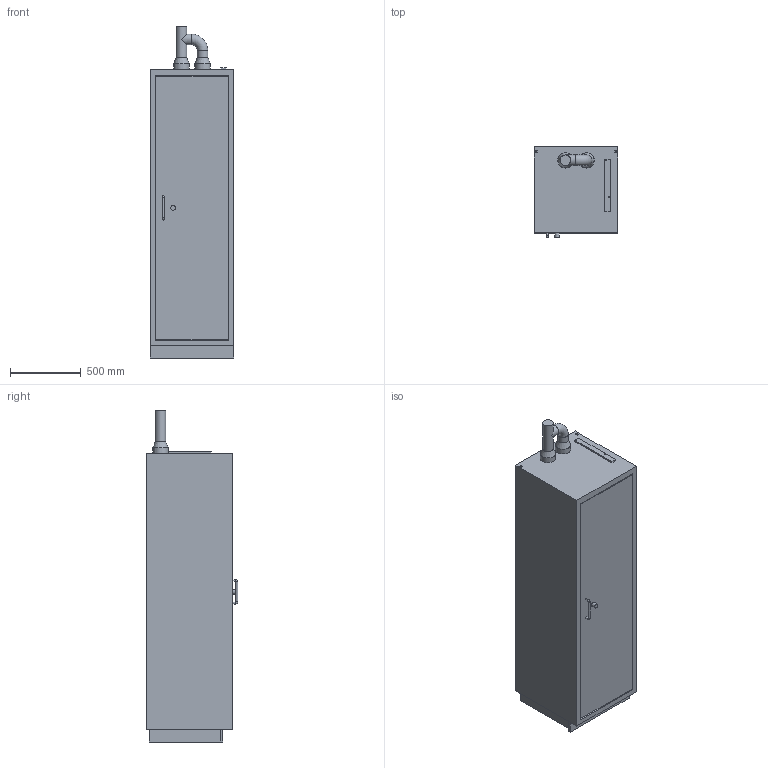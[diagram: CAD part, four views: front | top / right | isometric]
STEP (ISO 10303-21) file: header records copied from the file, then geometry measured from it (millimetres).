
FILE_DESCRIPTION(/* description */ ('Unknown'),/* implementation_level */ '2;1');
FILE_NAME(/* name */ 'BATTERY standard M_D00108837',/* time_stamp */ '2020-11-18T13:19:51+01:00',/* author */ ('Unknown'),/* organization */ ('Unknown'),/* preprocessor_version */ 'ST-DEVELOPER v16.7',/* originating_system */ 'Solid Edge',/* authorisation */ 'Unknown');
FILE_SCHEMA (('AUTOMOTIVE_DESIGN {1 0 10303 214 3 1 1}'));
Length unit declared in the file: millimetre
Products named in the file (1): BATTERY standard M_D00108837
Bounding box: 594 x 647 x 2351 mm (x, y, z)
Volume: 715639222.5 mm3; surface area: 6581091.5 mm2
Topology: 1 solids, 1 shells, 84 faces, 201 edges, 134 vertices
Faces by surface type: plane 62, cylinder 17, torus 3, cone 2
Full cylindrical faces by diameter (mm): 6.2 x2, 7.5 x2, 12 x3, 30 x4, 32 x1, 75 x3, 109.5 x2
Entity records: 2848 total; most frequent: CARTESIAN_POINT 379, DIRECTION 376, ORIENTED_EDGE 338, EDGE_CURVE 169, LINE 132, VECTOR 132, EDGE_LOOP 126, FACE_BOUND 126
